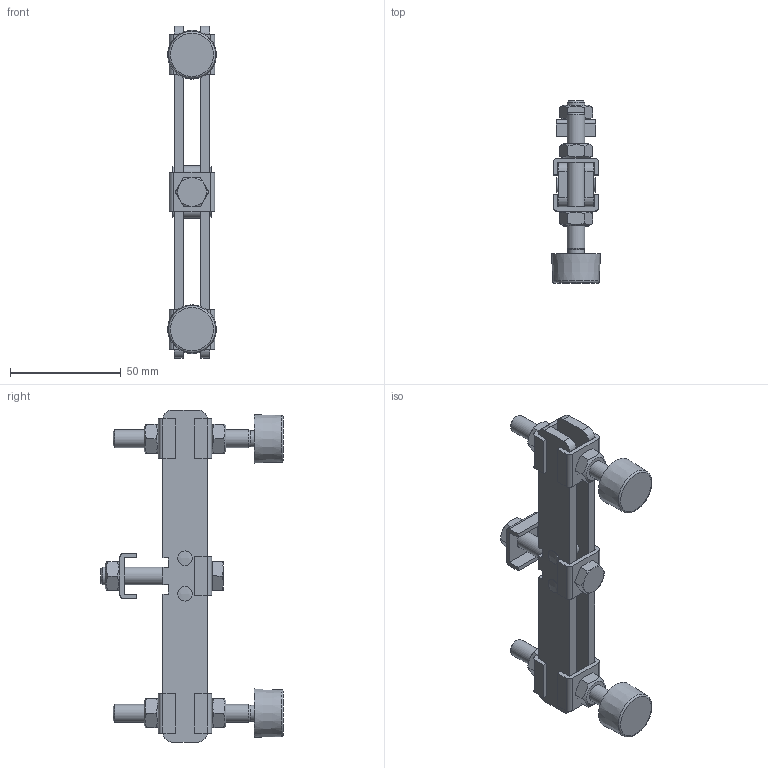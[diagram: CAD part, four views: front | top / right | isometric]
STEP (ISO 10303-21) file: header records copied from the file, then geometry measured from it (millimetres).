
FILE_DESCRIPTION(/* description */ (''),/* implementation_level */ '2;1');
FILE_NAME(/* name */ '/Users/eric/Desktop/Abco 1004.stp',/* time_stamp */ '2014-08-27T18:09:46+02:00',/* author */ (''),/* organization */ (''),/* preprocessor_version */ 'ST-DEVELOPER v14.6',/* originating_system */ '',/* authorisation */ '');
FILE_SCHEMA (('AUTOMOTIVE_DESIGN { 1 2 10303 214 1 1 1 1 }'));
Length unit declared in the file: centimetre
Products named in the file (1): 1234-K789
Bounding box: 22 x 82.3 x 150 mm (x, y, z)
Volume: 52893.7 mm3; surface area: 36007.3 mm2
Topology: 20 solids, 20 shells, 316 faces, 724 edges, 462 vertices
Faces by surface type: plane 182, cylinder 64, cone 64, sphere 4, torus 2
Full cylindrical faces by diameter (mm): 6 x8, 6.647 x5, 7.323 x3, 8 x5, 8.4 x6, 11.4 x5
Entity records: 8353 total; most frequent: CARTESIAN_POINT 1665, DIRECTION 1358, ORIENTED_EDGE 1302, EDGE_CURVE 651, AXIS2_PLACEMENT_3D 510, VERTEX_POINT 457, EDGE_LOOP 428, LINE 338
